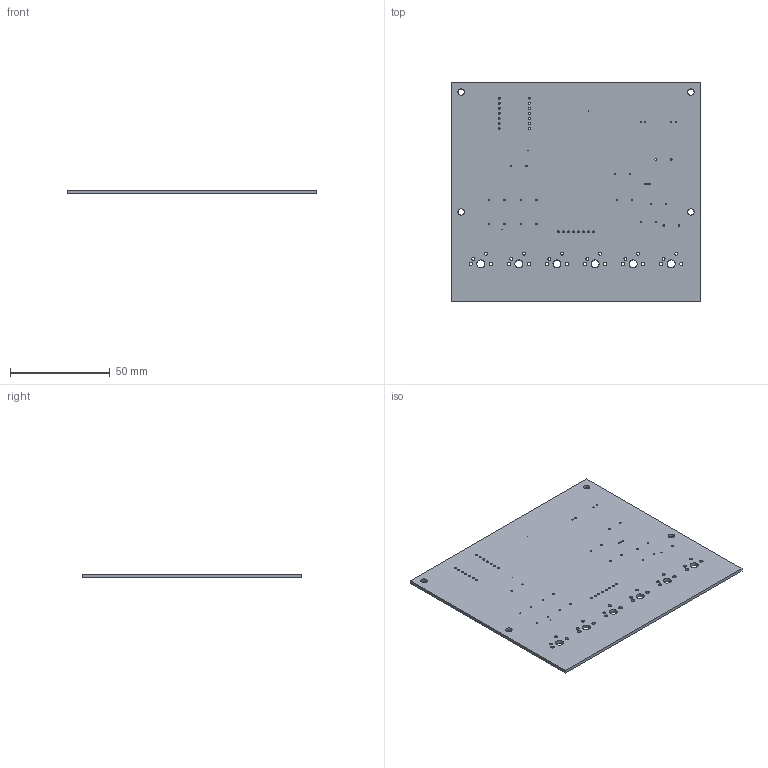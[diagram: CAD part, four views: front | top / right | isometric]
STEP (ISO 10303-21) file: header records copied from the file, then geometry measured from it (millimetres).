
FILE_DESCRIPTION(('Open CASCADE Model'),'2;1');
FILE_NAME('Open CASCADE Shape Model','2026-10-28T02:26:35',('Author'),( 'Open CASCADE'),'Open CASCADE STEP processor 7.9','Open CASCADE 7.9' ,'Unknown');
FILE_SCHEMA(('AUTOMOTIVE_DESIGN { 1 0 10303 214 1 1 1 1 }'));
Length unit declared in the file: millimetre
Products named in the file (1): Open CASCADE STEP translator 7.9 8
Bounding box: 125 x 110 x 1.6 mm (x, y, z)
Volume: 21698.3 mm3; surface area: 28486.1 mm2
Topology: 1 solids, 1 shells, 94 faces, 276 edges, 184 vertices
Faces by surface type: bspline 94
Entity records: 9438 total; most frequent: CARTESIAN_POINT 5913, ORIENTED_EDGE 552, PCURVE 552, DEFINITIONAL_REPRESENTATION 552, B_SPLINE_CURVE_WITH_KNOTS 476, EDGE_CURVE 276, FACE_BOUND 270, EDGE_LOOP 270
